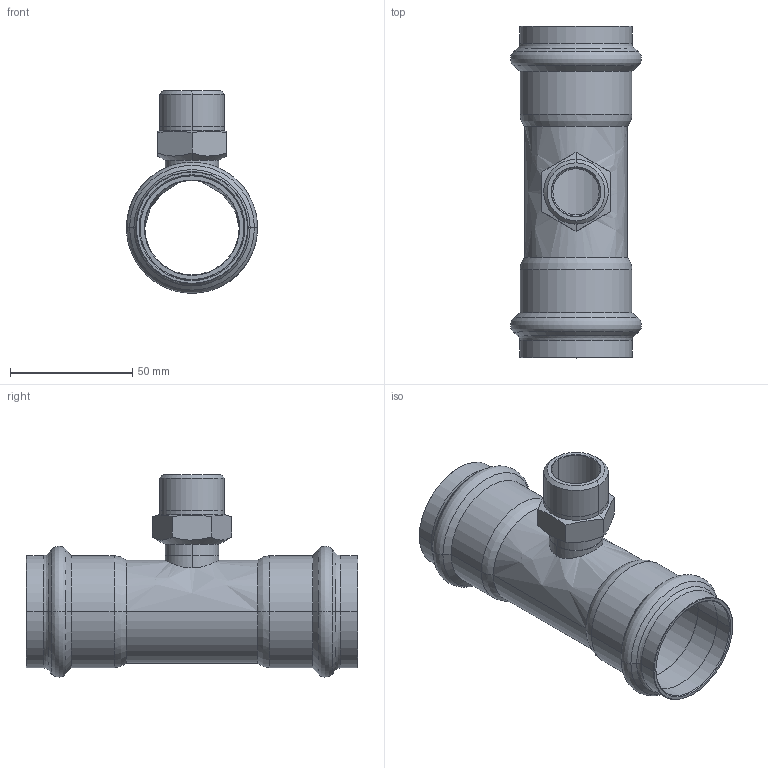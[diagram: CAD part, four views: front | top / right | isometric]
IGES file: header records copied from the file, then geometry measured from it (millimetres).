
Start section: Elysium IGES Interface
Global section: file name: C:\Users\Wallenburg\Desktop\3d modellen sudo\S-Pr VP\SP6132GV\6132GVW423442.igs; native system: CoCreate Modeling 17.00A  17-Jun-2010; preprocessor: CoCreate IGES_3D V2.2; author: Unknown; organization: Unknown; date: 20130123.164213; units: millimetre
Bounding box: 53.61 x 135.73 x 82.79 mm (x, y, z)
Volume: 47698.4 mm3; surface area: 44083.4 mm2
Topology: 1 solids, 1 shells, 114 faces, 246 edges, 136 vertices
Faces by surface type: bspline 114
